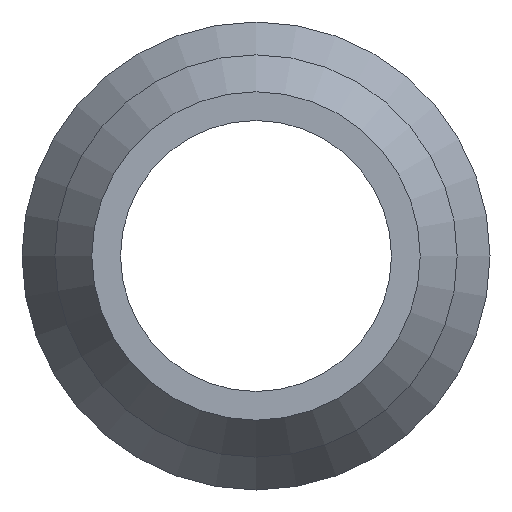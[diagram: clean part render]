
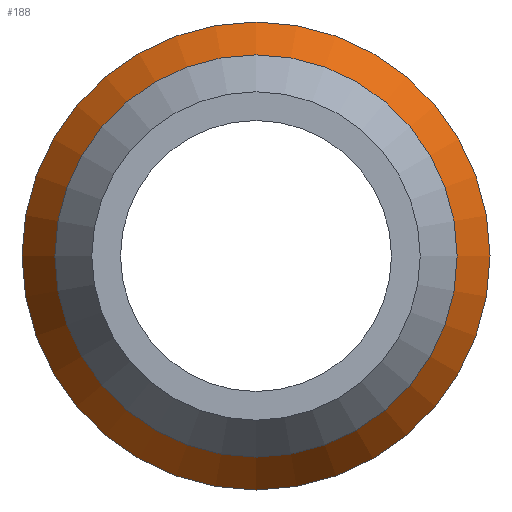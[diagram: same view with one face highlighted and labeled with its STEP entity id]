
A CAD part, left-side view. The second image highlights one B-rep face of the part: STEP entity #188.
In plain terms, the highlighted conical face has half-angle 30.838 degrees and reference radius 26.5 mm.
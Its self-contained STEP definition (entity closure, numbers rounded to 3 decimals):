
#15=CONICAL_SURFACE($,#218,26.5,30.838);
#31=FACE_BOUND($,#71,.T.);
#45=FACE_OUTER_BOUND($,#70,.T.);
#70=EDGE_LOOP($,(#145));
#71=EDGE_LOOP($,(#146));
#90=CIRCLE($,#214,28.5);
#92=CIRCLE($,#219,24.5);
#105=VERTEX_POINT($,#317);
#107=VERTEX_POINT($,#324);
#120=EDGE_CURVE($,#105,#105,#90,.T.);
#122=EDGE_CURVE($,#107,#107,#92,.T.);
#145=ORIENTED_EDGE($,*,*,#120,.F.);
#146=ORIENTED_EDGE($,*,*,#122,.T.);
#188=ADVANCED_FACE($,(#45,#31),#15,.T.);
#214=AXIS2_PLACEMENT_3D($,#318,#264,#265);
#218=AXIS2_PLACEMENT_3D($,#323,#272,#273);
#219=AXIS2_PLACEMENT_3D($,#325,#274,#275);
#264=DIRECTION('center_axis',(1.,0.,0.));
#265=DIRECTION('ref_axis',(0.,1.,0.));
#272=DIRECTION('center_axis',(1.,0.,0.));
#273=DIRECTION('ref_axis',(0.,1.,0.));
#274=DIRECTION('center_axis',(1.,0.,0.));
#275=DIRECTION('ref_axis',(0.,1.,0.));
#317=CARTESIAN_POINT('',(15.5,28.5,0.));
#318=CARTESIAN_POINT('Origin',(15.5,0.,0.));
#323=CARTESIAN_POINT('Origin',(12.15,0.,0.));
#324=CARTESIAN_POINT('',(8.8,24.5,0.));
#325=CARTESIAN_POINT('Origin',(8.8,0.,0.));
